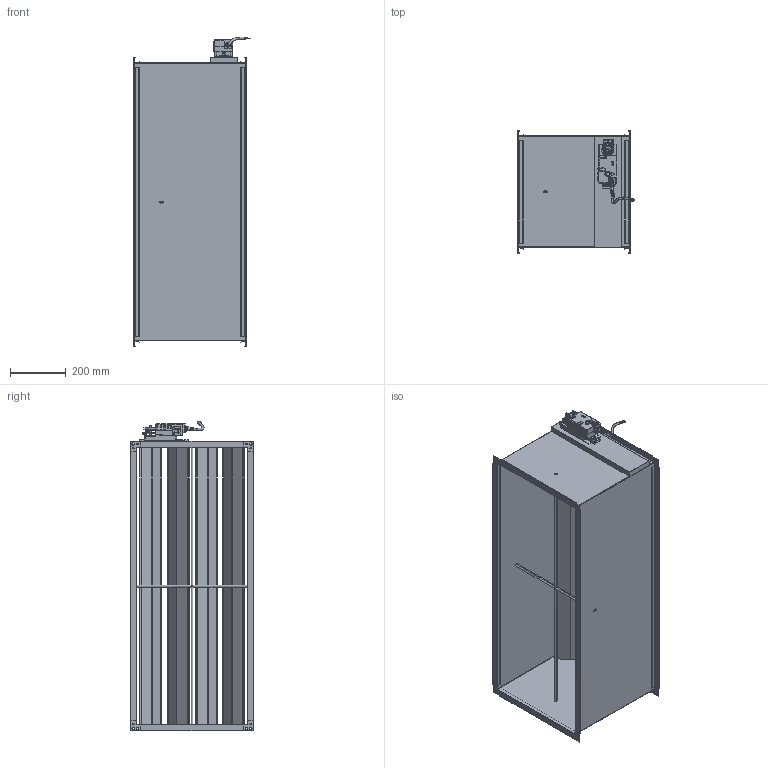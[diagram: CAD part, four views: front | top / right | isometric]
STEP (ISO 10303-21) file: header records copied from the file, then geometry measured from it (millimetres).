
FILE_DESCRIPTION (( 'STEP AP214' ), '1' );
FILE_NAME ('VAV-S1000400.STEP', '2025-05-08T12:54:30', ( '' ), ( '' ), 'SwSTEP 2.0', 'SolidWorks 2025', '' );
FILE_SCHEMA (( 'AUTOMOTIVE_DESIGN' ));
Length unit declared in the file: millimetre
Products named in the file (1): VAV-S1000400
Bounding box: 419.7 x 441 x 1113.69 mm (x, y, z)
Surface area: 4321964.4 mm2 (no closed solid volume)
Topology: 0 solids, 48 shells, 2076 faces, 5417 edges, 3446 vertices
Faces by surface type: plane 1533, cylinder 490, bspline 24, sphere 18, cone 10, torus 1
Full cylindrical faces by diameter (mm): 1 x4, 5.93 x1, 6 x16, 8 x1, 9 x8, 11 x1, 20 x1, 21 x2
Entity records: 91349 total; most frequent: CARTESIAN_POINT 41527, ORIENTED_EDGE 10619, DIRECTION 6793, EDGE_CURVE 5333, VERTEX_POINT 3419, B_SPLINE_CURVE_WITH_KNOTS 3170, AXIS2_PLACEMENT_3D 2589, EDGE_LOOP 2279
